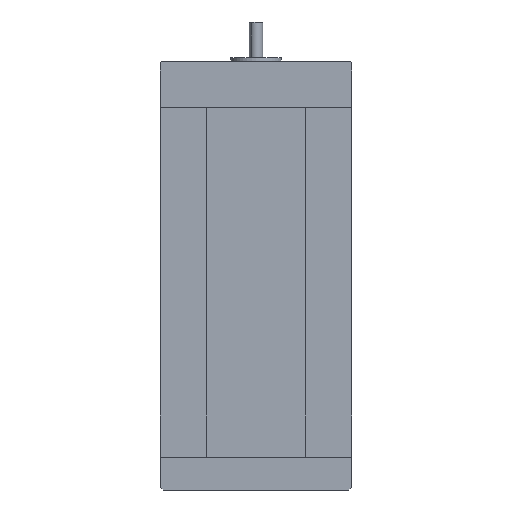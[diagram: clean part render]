
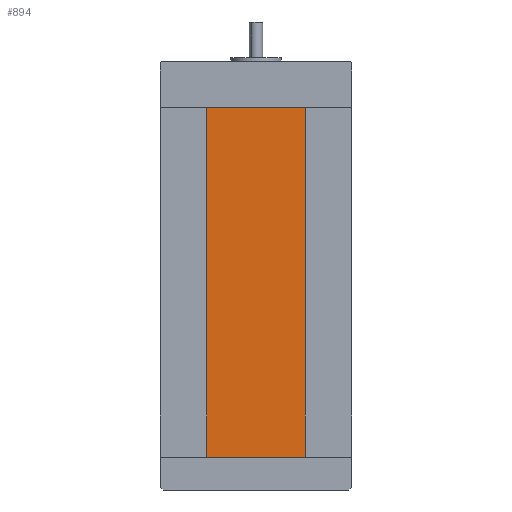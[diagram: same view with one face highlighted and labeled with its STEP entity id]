
A CAD part, front view. The second image highlights one B-rep face of the part: STEP entity #894.
In plain terms, the highlighted planar face has unit normal (0, -1, 0).
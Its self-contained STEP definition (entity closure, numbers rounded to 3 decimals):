
#41 = LINE ( 'NONE', #1830, #8059 ) ;
#501 = CARTESIAN_POINT ( 'NONE',  ( -107.64, -2.386, 265. ) ) ;
#894 = ADVANCED_FACE ( 'NONE', ( #42304 ), #6668, .F. ) ;
#1660 = EDGE_CURVE ( 'NONE', #24187, #39278, #12145, .T. ) ;
#1830 = CARTESIAN_POINT ( 'NONE',  ( -107.64, -2.386, 265. ) ) ;
#1952 = CARTESIAN_POINT ( 'NONE',  ( -107.64, -2.386, 265. ) ) ;
#2179 = EDGE_CURVE ( 'NONE', #20531, #32177, #27206, .T. ) ;
#3014 = VECTOR ( 'NONE', #26121, 1000. ) ;
#4736 = CARTESIAN_POINT ( 'NONE',  ( -107.64, -2.386, 0. ) ) ;
#5678 = DIRECTION ( 'NONE',  ( 1., 0., 0. ) ) ;
#6668 = PLANE ( 'NONE',  #32253 ) ;
#8059 = VECTOR ( 'NONE', #17628, 1000. ) ;
#9303 = EDGE_CURVE ( 'NONE', #32177, #39278, #16398, .T. ) ;
#12145 = LINE ( 'NONE', #38330, #3014 ) ;
#12723 = EDGE_CURVE ( 'NONE', #20531, #24187, #41, .T. ) ;
#12776 = ORIENTED_EDGE ( 'NONE', *, *, #2179, .F. ) ;
#14521 = ORIENTED_EDGE ( 'NONE', *, *, #9303, .F. ) ;
#16398 = LINE ( 'NONE', #43587, #24473 ) ;
#17628 = DIRECTION ( 'NONE',  ( 0., 0., -1. ) ) ;
#18036 = VECTOR ( 'NONE', #5678, 1000. ) ;
#19923 = EDGE_LOOP ( 'NONE', ( #42610, #14521, #12776, #37232 ) ) ;
#20531 = VERTEX_POINT ( 'NONE', #32116 ) ;
#22337 = DIRECTION ( 'NONE',  ( 0., 1., 0. ) ) ;
#24187 = VERTEX_POINT ( 'NONE', #4736 ) ;
#24473 = VECTOR ( 'NONE', #42671, 1000. ) ;
#26121 = DIRECTION ( 'NONE',  ( 1., 0., 0. ) ) ;
#27206 = LINE ( 'NONE', #1952, #18036 ) ;
#27845 = DIRECTION ( 'NONE',  ( 0., 0., 1. ) ) ;
#32116 = CARTESIAN_POINT ( 'NONE',  ( -107.64, -2.386, 265. ) ) ;
#32177 = VERTEX_POINT ( 'NONE', #41505 ) ;
#32253 = AXIS2_PLACEMENT_3D ( 'NONE', #501, #22337, #27845 ) ;
#37232 = ORIENTED_EDGE ( 'NONE', *, *, #12723, .T. ) ;
#38330 = CARTESIAN_POINT ( 'NONE',  ( -107.64, -2.386, 0. ) ) ;
#38622 = CARTESIAN_POINT ( 'NONE',  ( -32.64, -2.386, 0. ) ) ;
#39278 = VERTEX_POINT ( 'NONE', #38622 ) ;
#41505 = CARTESIAN_POINT ( 'NONE',  ( -32.64, -2.386, 265. ) ) ;
#42304 = FACE_OUTER_BOUND ( 'NONE', #19923, .T. ) ;
#42610 = ORIENTED_EDGE ( 'NONE', *, *, #1660, .T. ) ;
#42671 = DIRECTION ( 'NONE',  ( 0., 0., -1. ) ) ;
#43587 = CARTESIAN_POINT ( 'NONE',  ( -32.64, -2.386, 265. ) ) ;
